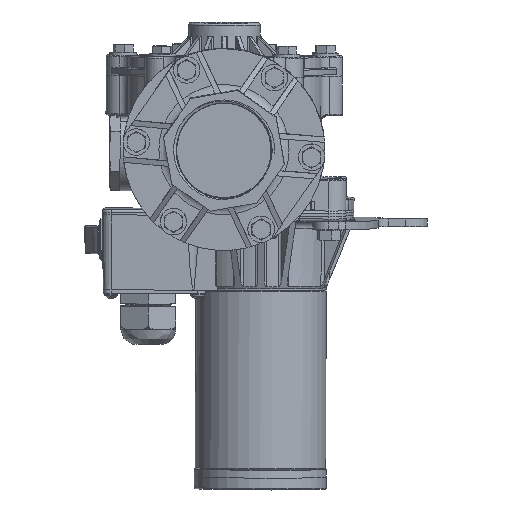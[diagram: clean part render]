
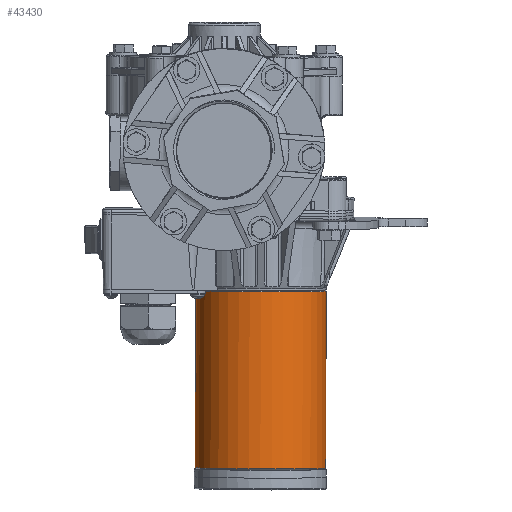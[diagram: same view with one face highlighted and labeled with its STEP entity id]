
A CAD part, front view. The second image highlights one B-rep face of the part: STEP entity #43430.
In plain terms, the highlighted cylindrical face has radius 38.976 mm (diameter 77.953 mm), a full revolution.
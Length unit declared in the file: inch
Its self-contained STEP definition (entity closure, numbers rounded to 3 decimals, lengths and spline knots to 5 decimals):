
#514=ELLIPSE('',#46766,4.48658,1.5345);
#515=ELLIPSE('',#46772,4.48658,1.5345);
#2230=CIRCLE('',#46764,1.5345);
#2231=CIRCLE('',#46767,1.5345);
#2232=CIRCLE('',#46768,1.5345);
#2233=CIRCLE('',#46769,1.5345);
#2234=CIRCLE('',#46770,1.5345);
#2235=CIRCLE('',#46771,1.5345);
#4140=CYLINDRICAL_SURFACE('',#46765,1.5345);
#6314=FACE_OUTER_BOUND('',#8820,.T.);
#8820=EDGE_LOOP('',(#36074,#36075,#36076,#36077,#36078,#36079,#36080,#36081,
#36082,#36083,#36084,#36085,#36086,#36087));
#11988=LINE('',#88123,#15198);
#11989=LINE('',#88129,#15199);
#11990=LINE('',#88133,#15200);
#11991=LINE('',#88138,#15201);
#15198=VECTOR('',#55854,1.5345);
#15199=VECTOR('',#55859,0.3937);
#15200=VECTOR('',#55862,1.5345);
#15201=VECTOR('',#55867,0.3937);
#19038=VERTEX_POINT('',#88118);
#19039=VERTEX_POINT('',#88122);
#19040=VERTEX_POINT('',#88124);
#19041=VERTEX_POINT('',#88126);
#19042=VERTEX_POINT('',#88128);
#19043=VERTEX_POINT('',#88130);
#19044=VERTEX_POINT('',#88132);
#19045=VERTEX_POINT('',#88135);
#19046=VERTEX_POINT('',#88137);
#19047=VERTEX_POINT('',#88139);
#24824=EDGE_CURVE('',#19038,#19038,#2230,.T.);
#24826=EDGE_CURVE('',#19038,#19039,#11988,.T.);
#24827=EDGE_CURVE('',#19039,#19040,#514,.T.);
#24828=EDGE_CURVE('',#19040,#19041,#2231,.T.);
#24829=EDGE_CURVE('',#19041,#19042,#11989,.T.);
#24830=EDGE_CURVE('',#19042,#19043,#2232,.T.);
#24831=EDGE_CURVE('',#19043,#19044,#11990,.T.);
#24832=EDGE_CURVE('',#19044,#19044,#2233,.T.);
#24833=EDGE_CURVE('',#19043,#19045,#2234,.T.);
#24834=EDGE_CURVE('',#19045,#19046,#11991,.T.);
#24835=EDGE_CURVE('',#19046,#19047,#2235,.T.);
#24836=EDGE_CURVE('',#19047,#19039,#515,.T.);
#36074=ORIENTED_EDGE('',*,*,#24824,.F.);
#36075=ORIENTED_EDGE('',*,*,#24826,.T.);
#36076=ORIENTED_EDGE('',*,*,#24827,.T.);
#36077=ORIENTED_EDGE('',*,*,#24828,.T.);
#36078=ORIENTED_EDGE('',*,*,#24829,.T.);
#36079=ORIENTED_EDGE('',*,*,#24830,.T.);
#36080=ORIENTED_EDGE('',*,*,#24831,.T.);
#36081=ORIENTED_EDGE('',*,*,#24832,.F.);
#36082=ORIENTED_EDGE('',*,*,#24831,.F.);
#36083=ORIENTED_EDGE('',*,*,#24833,.T.);
#36084=ORIENTED_EDGE('',*,*,#24834,.T.);
#36085=ORIENTED_EDGE('',*,*,#24835,.T.);
#36086=ORIENTED_EDGE('',*,*,#24836,.T.);
#36087=ORIENTED_EDGE('',*,*,#24826,.F.);
#43430=ADVANCED_FACE('',(#6314),#4140,.T.);
#46764=AXIS2_PLACEMENT_3D('',#88119,#55849,#55850);
#46765=AXIS2_PLACEMENT_3D('',#88121,#55852,#55853);
#46766=AXIS2_PLACEMENT_3D('',#88125,#55855,#55856);
#46767=AXIS2_PLACEMENT_3D('',#88127,#55857,#55858);
#46768=AXIS2_PLACEMENT_3D('',#88131,#55860,#55861);
#46769=AXIS2_PLACEMENT_3D('',#88134,#55863,#55864);
#46770=AXIS2_PLACEMENT_3D('',#88136,#55865,#55866);
#46771=AXIS2_PLACEMENT_3D('',#88140,#55868,#55869);
#46772=AXIS2_PLACEMENT_3D('',#88141,#55870,#55871);
#55849=DIRECTION('center_axis',(-0.004,0.017,
-1.));
#55850=DIRECTION('ref_axis',(1.,-0.001,-0.004));
#55852=DIRECTION('center_axis',(-0.004,0.017,
-1.));
#55853=DIRECTION('ref_axis',(1.,-0.001,-0.004));
#55854=DIRECTION('',(0.004,-0.017,1.));
#55855=DIRECTION('center_axis',(-0.001,0.946,
-0.326));
#55856=DIRECTION('ref_axis',(-0.004,-0.326,-0.946));
#55857=DIRECTION('center_axis',(0.004,-0.017,
1.));
#55858=DIRECTION('ref_axis',(1.,-0.001,-0.004));
#55859=DIRECTION('',(0.004,-0.017,1.));
#55860=DIRECTION('center_axis',(0.004,-0.017,
1.));
#55861=DIRECTION('ref_axis',(1.,-0.001,-0.004));
#55862=DIRECTION('',(0.004,-0.017,1.));
#55863=DIRECTION('center_axis',(0.004,-0.017,
1.));
#55864=DIRECTION('ref_axis',(1.,-0.001,-0.004));
#55865=DIRECTION('center_axis',(0.004,-0.017,
1.));
#55866=DIRECTION('ref_axis',(1.,-0.001,-0.004));
#55867=DIRECTION('',(-0.004,0.017,-1.));
#55868=DIRECTION('center_axis',(0.004,-0.017,
1.));
#55869=DIRECTION('ref_axis',(1.,-0.001,-0.004));
#55870=DIRECTION('center_axis',(-0.002,-0.934,
-0.358));
#55871=DIRECTION('ref_axis',(0.003,-0.358,0.934));
#88118=CARTESIAN_POINT('',(0.60326,-0.88689,-1.7279));
#88119=CARTESIAN_POINT('Origin',(2.13775,-0.88787,-1.73359));
#88121=CARTESIAN_POINT('Origin',(2.15324,-0.96109,2.46074));
#88122=CARTESIAN_POINT('',(0.60351,-0.88811,-1.65792));
#88123=CARTESIAN_POINT('',(0.61875,-0.96011,2.46643));
#88124=CARTESIAN_POINT('',(0.60557,-0.82679,-1.47982));
#88125=CARTESIAN_POINT('Origin',(2.138,-0.88909,-1.6636));
#88126=CARTESIAN_POINT('',(0.60425,-0.8762,-1.48068));
#88127=CARTESIAN_POINT('Origin',(2.13866,-0.89218,-1.48663));
#88128=CARTESIAN_POINT('',(0.61846,-0.94337,2.36671));
#88129=CARTESIAN_POINT('',(0.61883,-0.94511,2.46669));
#88130=CARTESIAN_POINT('',(0.61838,-0.95837,2.36644));
#88131=CARTESIAN_POINT('Origin',(2.15287,-0.95935,2.36076));
#88132=CARTESIAN_POINT('',(0.61864,-0.95959,2.43643));
#88133=CARTESIAN_POINT('',(0.61875,-0.96011,2.46643));
#88134=CARTESIAN_POINT('Origin',(2.15313,-0.96057,2.43075));
#88135=CARTESIAN_POINT('',(0.61844,-0.97336,2.36618));
#88136=CARTESIAN_POINT('Origin',(2.15287,-0.95935,2.36076));
#88137=CARTESIAN_POINT('',(0.60423,-0.9062,-1.48121));
#88138=CARTESIAN_POINT('',(0.61881,-0.97511,2.46617));
#88139=CARTESIAN_POINT('',(0.60548,-0.95561,-1.48207));
#88140=CARTESIAN_POINT('Origin',(2.13866,-0.89218,-1.48663));
#88141=CARTESIAN_POINT('Origin',(2.138,-0.88909,-1.6636));
